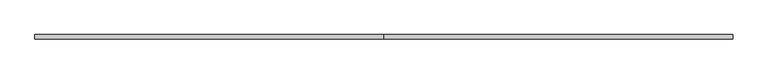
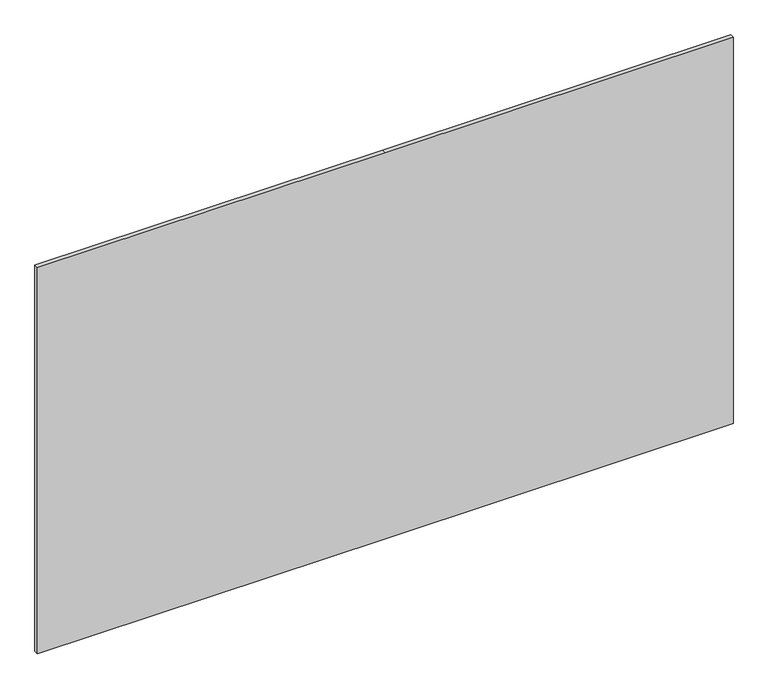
"""IFC4 building model written with IfcOpenShell, lengths in millimetres: plate geometry, 系统嵌板 : 玻璃."""

import ifcopenshell
import ifcopenshell.guid

model = None  # the IFC model being written
_history = None  # IfcOwnerHistory: only IFC2X3 demands one
_inside = {}  # id of a spatial element -> (the spatial element, [elements in it])
_under = {}  # id of a project, library or spatial element -> (it, [spatial elements below it])
_declared = {}  # id of a project -> (the project, [libraries it declares])
_typed = {}  # id of a type object -> (the type object, [elements of that type])
_made_of = {}  # id of a material, layer set ... -> (it, [elements and type objects made of it])


def new_model(schema):
    """Start an empty IFC model of exactly this schema.

    Asked for "IFC4X3", IfcOpenShell would pick the latest addendum, in which some entities
    have other attributes; the version numbers below select the first issue.
    IFC2X3 requires an IfcOwnerHistory on every rooted entity: one is made here for all.
    """
    global model, _history
    if schema == "IFC4X3":
        model = ifcopenshell.file(schema_version=(4, 3, 0, 0))
    else:
        model = ifcopenshell.file(schema=schema)
    _inside.clear()
    _under.clear()
    _declared.clear()
    _typed.clear()
    _made_of.clear()
    _history = None
    if model.schema == "IFC2X3":
        org = make("IfcOrganization", Name="unknown")
        user = make(
            "IfcPersonAndOrganization",
            ThePerson=make("IfcPerson", FamilyName="unknown"),
            TheOrganization=org,
        )
        app = make(
            "IfcApplication",
            ApplicationDeveloper=org,
            Version="unknown",
            ApplicationFullName="unknown",
            ApplicationIdentifier="unknown",
        )
        _history = make(
            "IfcOwnerHistory",
            OwningUser=user,
            OwningApplication=app,
            ChangeAction="ADDED",
            CreationDate=0,
        )
    return model


def make(cls, **values):
    """One entity of the class cls with the attributes given. An attribute that is None is left unset."""
    return model.create_entity(
        cls, **{name: value for name, value in values.items() if value is not None}
    )


def rooted(cls, **values):
    """An entity with a GlobalId (a new one), such as an element, a storey or a relation."""
    return make(cls, GlobalId=ifcopenshell.guid.new(), OwnerHistory=_history, **values)


def si_unit(unit_type, name, prefix=None):
    """IfcSIUnit, for example si_unit("LENGTHUNIT", "METRE", prefix="MILLI")."""
    return make("IfcSIUnit", UnitType=unit_type, Prefix=prefix, Name=name)


def assignment(units):
    """IfcUnitAssignment: the units of a project."""
    return None if units is None else make("IfcUnitAssignment", Units=units)


def point(xyz):
    """IfcCartesianPoint."""
    return None if xyz is None else make("IfcCartesianPoint", Coordinates=xyz)


def direction(xyz):
    """IfcDirection."""
    return None if xyz is None else make("IfcDirection", DirectionRatios=xyz)


def frame(location, z_axis=None, x_axis=None):
    """IfcAxis2Placement3D, a coordinate frame: its origin and axes. An axis left out is left unset."""
    return make(
        "IfcAxis2Placement3D",
        Location=point(location),
        Axis=direction(z_axis),
        RefDirection=direction(x_axis),
    )


def origin():
    """The frame at (0, 0, 0) with its axes left unset."""
    return frame((0.0, 0.0, 0.0))


def place(relative_to, where):
    """IfcLocalPlacement: puts the frame where relative to a parent placement (None: the world)."""
    return make(
        "IfcLocalPlacement", PlacementRelTo=relative_to, RelativePlacement=where
    )


def context(
    kind, dimensions, precision=None, world=None, true_north=None, identifier=None
):
    """IfcGeometricRepresentationContext, for example the 3D "Model" context."""
    return make(
        "IfcGeometricRepresentationContext",
        ContextIdentifier=identifier,
        ContextType=kind,
        CoordinateSpaceDimension=dimensions,
        Precision=precision,
        WorldCoordinateSystem=world,
        TrueNorth=true_north,
    )


def project(units=None, contexts=None):
    """IfcProject with its units and contexts."""
    return rooted(
        "IfcProject",
        Name="project",
        RepresentationContexts=contexts,
        UnitsInContext=assignment(units),
    )


def spatial(cls, under=None, at=None, **own):
    """A site, building, storey or space (cls), placed at a placement, below another one or the project."""
    s = rooted(cls, ObjectPlacement=at, **own)
    if under is not None:
        _under.setdefault(under.id(), (under, []))[1].append(s)
    return s


def polyline(points):
    """IfcPolyline through the points."""
    return make("IfcPolyline", Points=[point(p) for p in points])


def outline(outer, holes=None, kind="AREA"):
    """IfcArbitraryClosedProfileDef: a profile drawn as a closed curve; with holes, ...WithVoids."""
    if holes is None:
        return make("IfcArbitraryClosedProfileDef", ProfileType=kind, OuterCurve=outer)
    return make(
        "IfcArbitraryProfileDefWithVoids",
        ProfileType=kind,
        OuterCurve=outer,
        InnerCurves=holes,
    )


def extrude(swept, where, along, depth):
    """IfcExtrudedAreaSolid: the profile swept, set in the frame where, extruded along a direction by depth."""
    return make(
        "IfcExtrudedAreaSolid",
        SweptArea=swept,
        Position=where,
        ExtrudedDirection=direction(along),
        Depth=depth,
    )


def shape(context_of_items, identifier, shape_type, items):
    """IfcShapeRepresentation: the items that make up one representation, for example the "Body"."""
    return make(
        "IfcShapeRepresentation",
        ContextOfItems=context_of_items,
        RepresentationIdentifier=identifier,
        RepresentationType=shape_type,
        Items=items,
    )


def source(mapping_origin, context_of_items, identifier, shape_type, items):
    """IfcRepresentationMap: a shape defined once, which mapped items show again and again."""
    return make(
        "IfcRepresentationMap",
        MappingOrigin=mapping_origin,
        MappedRepresentation=shape(context_of_items, identifier, shape_type, items),
    )


def transform(
    local_origin,
    x_axis=None,
    y_axis=None,
    z_axis=None,
    scale=None,
    scale2=None,
    scale3=None,
    uniform=True,
):
    """IfcCartesianTransformationOperator3D, or its non-uniform kind. x_axis, y_axis, z_axis: its Axis1, 2, 3."""
    if uniform:
        return make(
            "IfcCartesianTransformationOperator3D",
            Axis1=direction(x_axis),
            Axis2=direction(y_axis),
            LocalOrigin=point(local_origin),
            Scale=scale,
            Axis3=direction(z_axis),
        )
    return make(
        "IfcCartesianTransformationOperator3DnonUniform",
        Axis1=direction(x_axis),
        Axis2=direction(y_axis),
        LocalOrigin=point(local_origin),
        Scale=scale,
        Axis3=direction(z_axis),
        Scale2=scale2,
        Scale3=scale3,
    )


def mapped(mapping_source, mapping_target):
    """IfcMappedItem: shows the shape of a source again, moved by a transform."""
    return make(
        "IfcMappedItem", MappingSource=mapping_source, MappingTarget=mapping_target
    )


def made_of(thing, what):
    """Note that an element or type object is made of a material, layer set ...; save() writes the relation."""
    if what is not None:
        _made_of.setdefault(what.id(), (what, []))[1].append(thing)
    return thing


def element(
    cls,
    number,
    at=None,
    inside=None,
    cuts=None,
    type_object=None,
    material=None,
    context=None,
    identifier="Body",
    shape_type=None,
    held_by="IfcProductDefinitionShape",
    body=None,
    shapes=None,
    **own,
):
    """One element of the class cls, such as IfcWall. Its Tag is "e" and its number.

    at: its placement. inside: the storey or other place that contains it. cuts: it is an
    opening in that element (IfcRelVoidsElement). A single representation is given by context,
    identifier, shape_type and body (its items); several are given by shapes. held_by: the class
    of the entity that holds the representations. save() writes the other relations.
    """
    e = rooted(cls, Tag="e%d" % number, ObjectPlacement=at, **own)
    if body is not None:
        shapes = [shape(context, identifier, shape_type, body)]
    if shapes is not None:
        e.Representation = make(held_by, Representations=shapes)
    if inside is not None:
        _inside.setdefault(inside.id(), (inside, []))[1].append(e)
    if cuts is not None:
        rooted(
            "IfcRelVoidsElement", RelatingBuildingElement=cuts, RelatedOpeningElement=e
        )
    if type_object is not None:
        _typed.setdefault(type_object.id(), (type_object, []))[1].append(e)
    return made_of(e, material)


def aggregate(whole, parts):
    """IfcRelAggregates: a whole, such as a stair, and the parts it consists of."""
    return rooted("IfcRelAggregates", RelatingObject=whole, RelatedObjects=parts)


def save(model, path):
    """Write the relations noted so far, then the file.

    IfcRelAggregates (storeys below a building ...), IfcRelContainedInSpatialStructure (elements
    in a storey), IfcRelDefinesByType, IfcRelAssociatesMaterial and IfcRelDeclares: one each for
    every whole, place, type object, material and project.
    """
    for whole, parts in _under.values():
        aggregate(whole, parts)
    for where, things in _inside.values():
        rooted(
            "IfcRelContainedInSpatialStructure",
            RelatedElements=things,
            RelatingStructure=where,
        )
    for kind, things in _typed.values():
        rooted("IfcRelDefinesByType", RelatedObjects=things, RelatingType=kind)
    for what, things in _made_of.values():
        rooted("IfcRelAssociatesMaterial", RelatedObjects=things, RelatingMaterial=what)
    for by, libraries in _declared.values():
        rooted("IfcRelDeclares", RelatingContext=by, RelatedDefinitions=libraries)
    model.write(path)


def plate_e904a3ee(model_context):
    return source(origin(), model_context, "Body", "SweptSolid", [
        extrude(outline(polyline([(0.0, -2000.0), (0.0, 0.0), (0.0, 2000.0), (2350.0, 2000.0), (2350.0, 0.0), (2350.0, -2000.0), (0.0, -2000.0)])), frame((0.0, -12.5, 0.0), z_axis=(0.0, 1.0, 0.0), x_axis=(0.0, 0.0, 1.0)), (0.0, 0.0, 1.0), 25.0),
    ])


if __name__ == "__main__":
    model = new_model("IFC4")
    model_context = context("Model", 3, world=origin())
    ifc_project = project(units=[si_unit("LENGTHUNIT", "METRE", prefix="MILLI")], contexts=[model_context])
    site = spatial("IfcSite", under=ifc_project)
    building = spatial("IfcBuilding", under=site)
    placement = place(None, origin())
    plate_shape = plate_e904a3ee(model_context)
    element("IfcPlate", 1, ObjectType="系统嵌板 : 玻璃", at=placement, inside=building, context=model_context, shape_type="MappedRepresentation", body=[
        mapped(plate_shape, transform((0.0, 0.0, 0.0), x_axis=(1.0, 0.0, 0.0), y_axis=(0.0, 1.0, 0.0), z_axis=(0.0, 0.0, 1.0))),
    ])
    save(model, "model.ifc")
